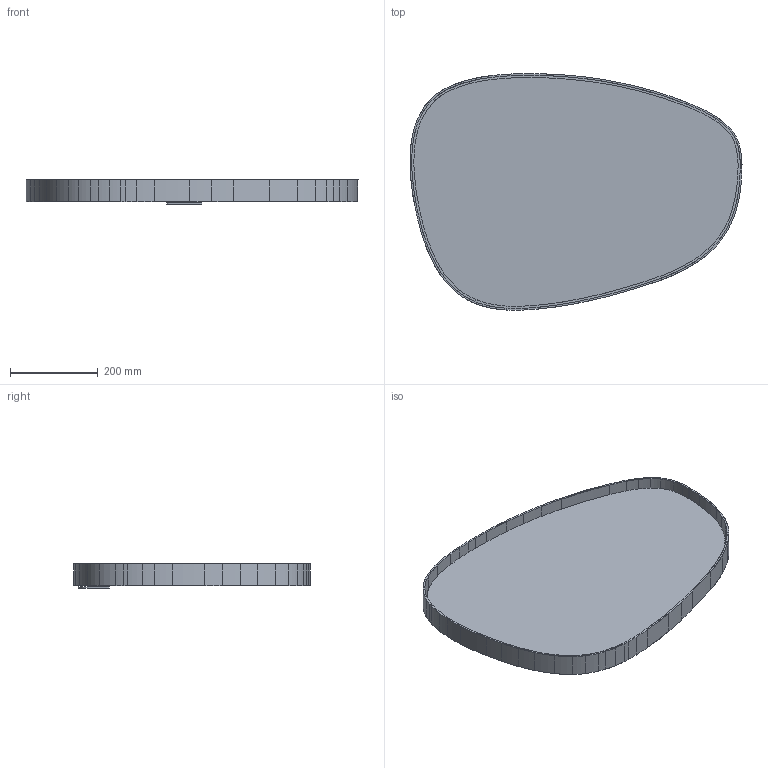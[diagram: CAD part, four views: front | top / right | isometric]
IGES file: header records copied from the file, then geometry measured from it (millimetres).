
Start section: SolidWorks IGES file using analytic representation for surfaces
Global section: file name: C:\VaultDeCastelli\Progetti\DC\PESO LEGGERO PRODOTTI\Ale\DeCastelli-3D-Syro Mirror 76.igs; native system: SolidWorks 2022; preprocessor: SolidWorks 2022; author: AlessandroP; date: 240726.104154; units: millimetre
Bounding box: 756.68 x 539.02 x 56 mm (x, y, z)
Surface area: 1332855.5 mm2 (no closed solid volume)
Topology: 0 solids, 0 shells, 398 faces, 3940 edges, 3940 vertices
Faces by surface type: revolution 211, bspline 187
